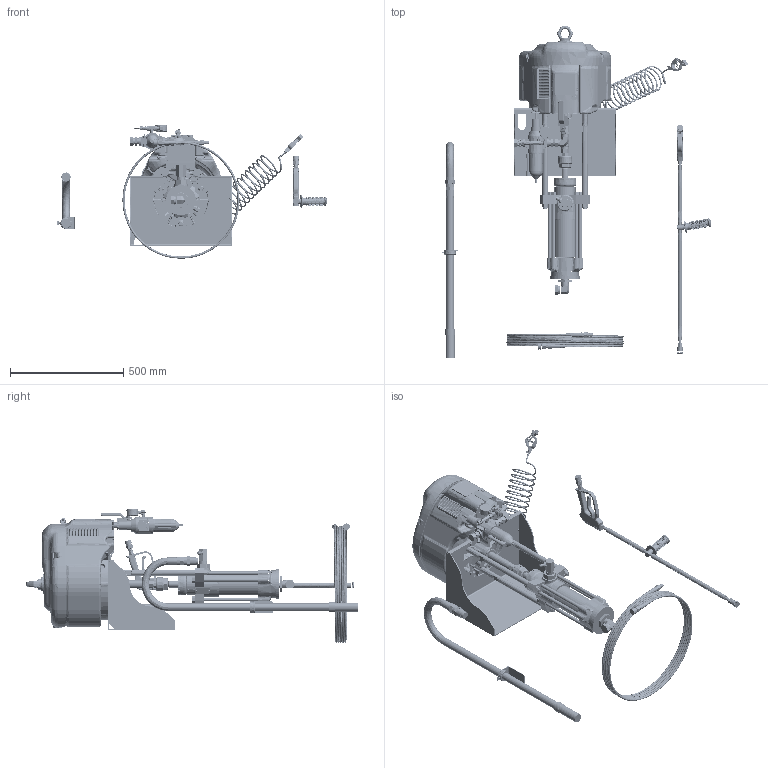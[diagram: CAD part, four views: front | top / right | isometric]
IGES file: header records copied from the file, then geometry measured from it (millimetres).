
Start section:  PTC IGES file: 247554-en-s.igs
Global section: file name: 247554-en-s.igs; native system: Creo Parametric by PTC Inc.; preprocessor: 2019030; author: qusrh3; organization: Unknown; date: 20191231.163447; units: inch
Bounding box: 1197.26 x 1466.88 x 589.7 mm (x, y, z)
Surface area: 5176475.6 mm2 (no closed solid volume)
Topology: 0 solids, 0 shells, 7966 faces, 43777 edges, 43748 vertices
Faces by surface type: bspline 4054, revolution 3900, extrusion 12
